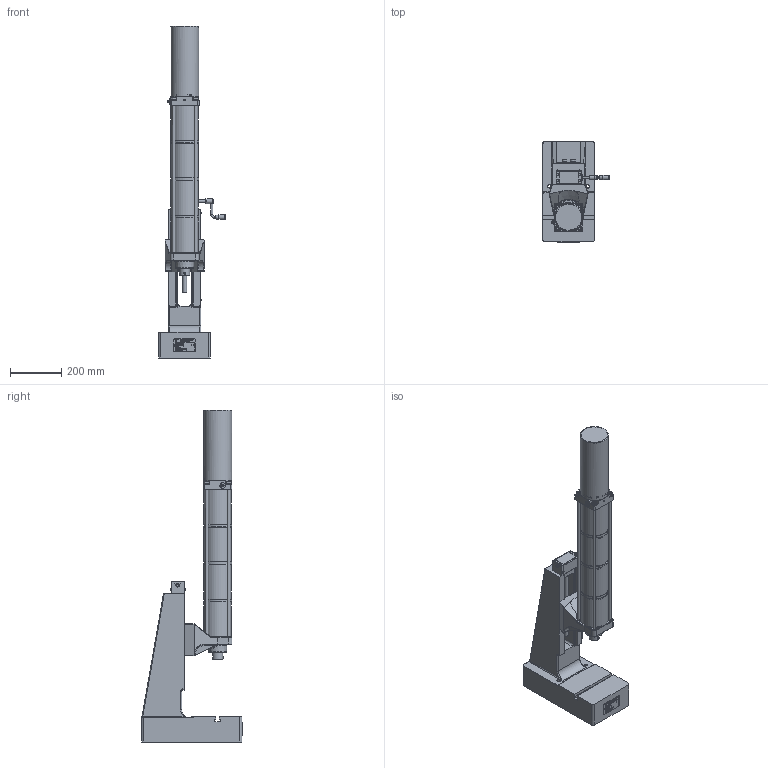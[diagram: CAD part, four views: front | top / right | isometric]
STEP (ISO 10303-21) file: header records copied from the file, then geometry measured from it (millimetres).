
FILE_DESCRIPTION(/* description */ ('Bausatz Ständer T4N HV-OST'),/* implementation_level */ '2;1');
FILE_NAME(/* name */ 'B:\02_CAD_oeffentlich\CAD_3D_oeffentlich_step\Druckluftpresse\DRP_1700_100_130.stp',/* time_stamp */ '2017-08-25T09:37:53+02:00',/* author */ ('Finsterle'),/* organization */ (''),/* preprocessor_version */ 'ST-DEVELOPER v16.1',/* originating_system */ 'Autodesk Inventor 2016',/* authorisation */ '');
FILE_SCHEMA (('AUTOMOTIVE_DESIGN { 1 0 10303 214 3 1 1 }'));
Products named in the file (5): ENG-000753-1_V; ENG-000901_V; HBF-000760; ENG-000755; HBF-001068_V
Assembly tree (5 placements, depth 2):
  HBF-001068_V
    ENG-000753-1_V
    ENG-000901_V
    HBF-000760
    ENG-000755  x2
Bounding box: 259.79 x 393.8 x 1296.37 mm (x, y, z)
Volume: 12554597.2 mm3; surface area: 1861993.6 mm2
Topology: 6 solids, 16 shells, 7637 faces, 20686 edges, 13512 vertices
Faces by surface type: plane 4608, bspline 2104, cylinder 485, cone 246, torus 119, sphere 75
Full cylindrical faces by diameter (mm): 1 x1, 2 x1, 2.4 x3, 2.459 x2, 3 x7, 3.242 x7, 3.5 x2, 3.65 x4, 4 x6, 4.134 x1, 4.5 x4, 4.917 x6, 5 x3, 6.2 x4, 6.5 x2, 6.647 x1, 8 x7, 8.4 x1, 8.5 x1, 10 x7, 10.02 x1, 10.106 x2, 10.5 x12, 11.8 x2, 12 x7, 13 x4, 13.5 x4, 14 x3, 14.376 x2, 14.95 x3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
Entity records: 259151 total; most frequent: CARTESIAN_POINT 76086, ORIENTED_EDGE 40142, DIRECTION 28154, EDGE_CURVE 20058, LINE 13986, VECTOR 13986, VERTEX_POINT 13382, EDGE_LOOP 8634
